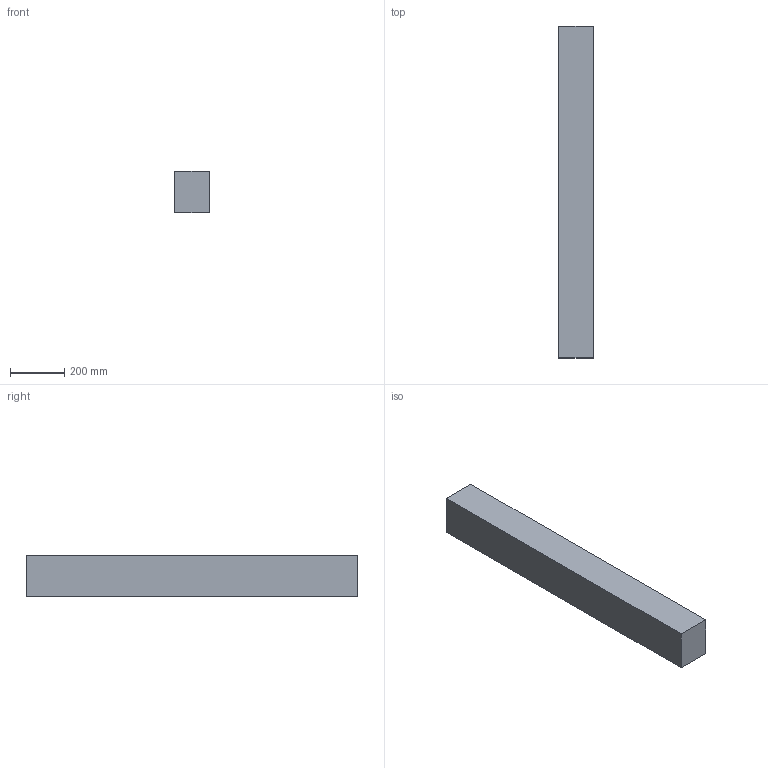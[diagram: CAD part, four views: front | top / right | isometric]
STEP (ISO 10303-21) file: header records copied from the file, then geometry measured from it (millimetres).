
FILE_DESCRIPTION(/* description */ (''),/* implementation_level */ '2;1');
FILE_NAME(/* name */ '5x6x48',/* time_stamp */ '2024-09-20T11:46:10-05:00',/* author */ (''),/* organization */ (''),/* preprocessor_version */ 'ST-DEVELOPER v19.2',/* originating_system */ 'Rhino 8.5',/* authorisation */ '');
FILE_SCHEMA (('CONFIG_CONTROL_DESIGN'));
Length unit declared in the file: inch
Products named in the file (1): Document
Bounding box: 127 x 1219.2 x 152.4 mm (x, y, z)
Volume: 23597372.2 mm3; surface area: 719998.6 mm2
Topology: 1 solids, 1 shells, 6 faces, 12 edges, 8 vertices
Faces by surface type: plane 6
Entity records: 226 total; most frequent: CARTESIAN_POINT 40, ORIENTED_EDGE 24, EDGE_CURVE 12, B_SPLINE_CURVE_WITH_KNOTS 12, DIRECTION 10, VERTEX_POINT 8, AXIS2_PLACEMENT_3D 8, ORGANIZATION 7
